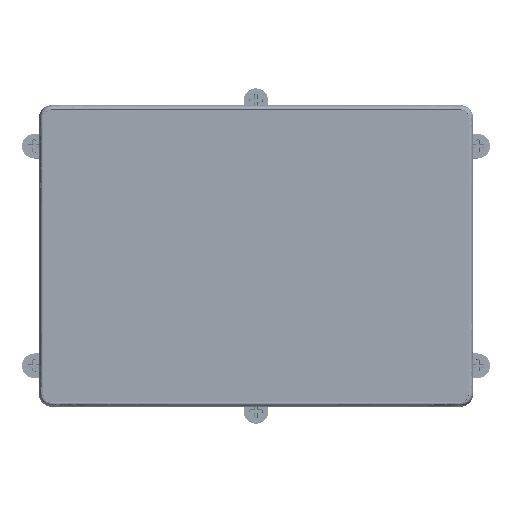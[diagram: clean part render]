
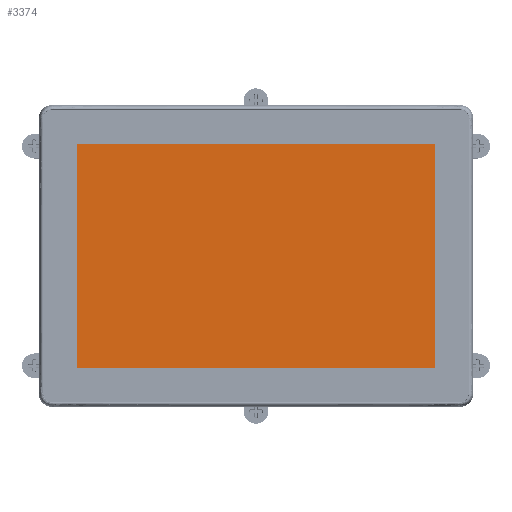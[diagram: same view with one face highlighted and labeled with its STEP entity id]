
A CAD part, top view. The second image highlights one B-rep face of the part: STEP entity #3374.
In plain terms, the highlighted planar face has unit normal (0, 0, 1).
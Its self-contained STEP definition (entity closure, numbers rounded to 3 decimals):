
#734=DIRECTION('',(0.,-1.,0.));
#735=VECTOR('',#734,136.64);
#736=CARTESIAN_POINT('',(-109.,68.32,4.29));
#737=LINE('',#736,#735);
#738=DIRECTION('',(-1.,0.,0.));
#739=VECTOR('',#738,218.);
#740=CARTESIAN_POINT('',(109.,68.32,4.29));
#741=LINE('',#740,#739);
#742=DIRECTION('',(0.,1.,0.));
#743=VECTOR('',#742,136.64);
#744=CARTESIAN_POINT('',(109.,-68.32,4.29));
#745=LINE('',#744,#743);
#746=DIRECTION('',(1.,0.,0.));
#747=VECTOR('',#746,218.);
#748=CARTESIAN_POINT('',(-109.,-68.32,4.29));
#749=LINE('',#748,#747);
#2227=CARTESIAN_POINT('',(-109.,68.32,4.29));
#2229=VERTEX_POINT('',#2227);
#2232=CARTESIAN_POINT('',(-109.,-68.32,4.29));
#2234=VERTEX_POINT('',#2232);
#2235=CARTESIAN_POINT('',(109.,68.32,4.29));
#2237=VERTEX_POINT('',#2235);
#2239=CARTESIAN_POINT('',(109.,-68.32,4.29));
#2241=VERTEX_POINT('',#2239);
#3363=CARTESIAN_POINT('',(0.,0.,4.29));
#3364=DIRECTION('',(0.,0.,1.));
#3365=DIRECTION('',(1.,0.,0.));
#3366=AXIS2_PLACEMENT_3D('',#3363,#3364,#3365);
#3367=PLANE('',#3366);
#3368=ORIENTED_EDGE('',*,*,#3286,.F.);
#3369=ORIENTED_EDGE('',*,*,#3310,.F.);
#3370=ORIENTED_EDGE('',*,*,#3329,.F.);
#3371=ORIENTED_EDGE('',*,*,#3349,.F.);
#3372=EDGE_LOOP('',(#3368,#3369,#3370,#3371));
#3373=FACE_OUTER_BOUND('',#3372,.F.);
#3374=ADVANCED_FACE('',(#3373),#3367,.T.);
#3286=EDGE_CURVE('',#2229,#2234,#737,.T.);
#3310=EDGE_CURVE('',#2237,#2229,#741,.T.);
#3329=EDGE_CURVE('',#2241,#2237,#745,.T.);
#3349=EDGE_CURVE('',#2234,#2241,#749,.T.);
